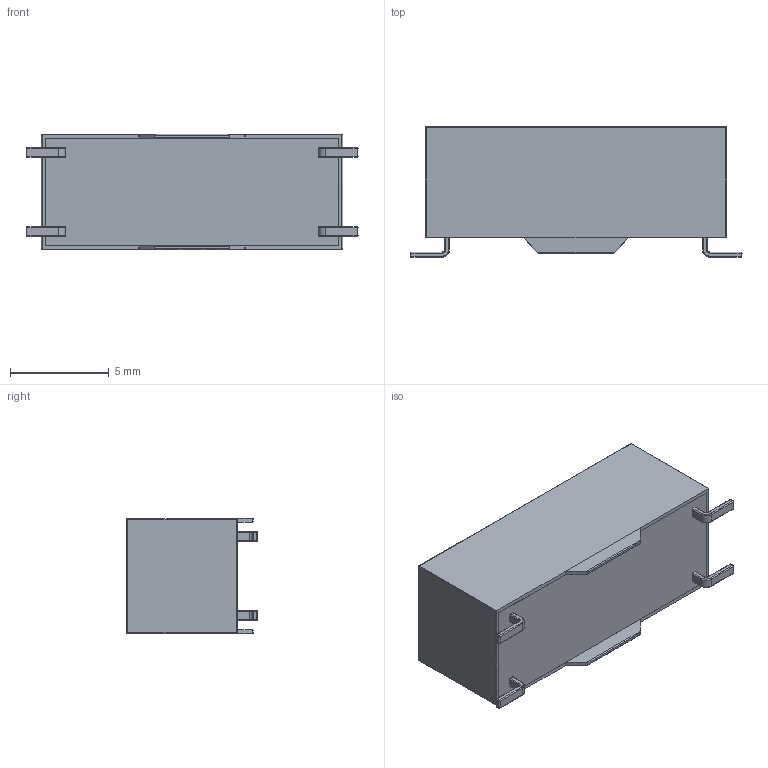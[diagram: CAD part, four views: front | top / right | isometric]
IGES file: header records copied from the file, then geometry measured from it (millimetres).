
Start section: SolidWorks IGES file using analytic representation for surfaces
Global section: file name: T:\Relays in Solidworks\Batch 1\200-1-B.IGS; native system: SolidWorks 2009; preprocessor: SolidWorks 2009; author: alex.leming; date: 100629.132116; units: inch
Bounding box: 16.8 x 6.6 x 5.85 mm (x, y, z)
Surface area: 1044.1 mm2 (no closed solid volume)
Topology: 0 solids, 0 shells, 429 faces, 3125 edges, 3103 vertices
Faces by surface type: bspline 313, revolution 116
